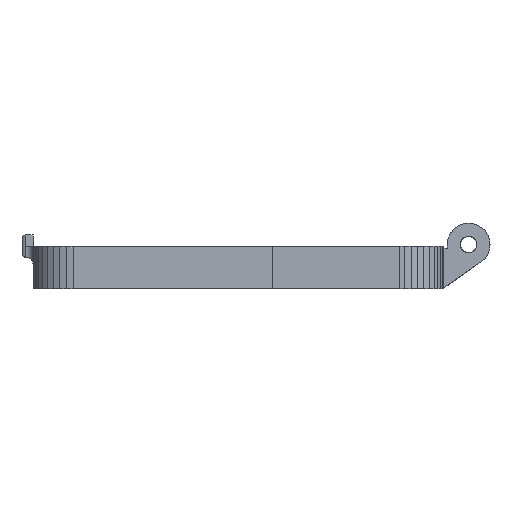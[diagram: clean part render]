
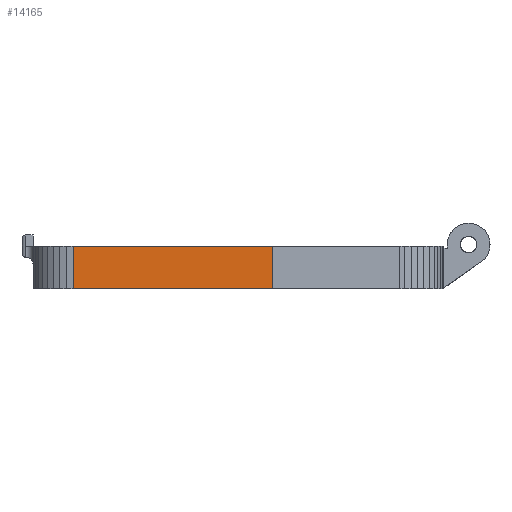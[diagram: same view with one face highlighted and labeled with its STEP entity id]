
A CAD part, left-side view. The second image highlights one B-rep face of the part: STEP entity #14165.
In plain terms, the highlighted planar face has unit normal (-1, 0, 0).
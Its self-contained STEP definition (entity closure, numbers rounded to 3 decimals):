
#837=PLANE('',#15071);
#1392=FACE_OUTER_BOUND('',#2193,.T.);
#2193=EDGE_LOOP('',(#10135,#10136,#10137,#10138));
#2984=LINE('',#18928,#4609);
#3067=LINE('',#19200,#4692);
#3069=LINE('',#19204,#4694);
#3070=LINE('',#19205,#4695);
#4609=VECTOR('',#15928,10.);
#4692=VECTOR('',#16099,10.);
#4694=VECTOR('',#16103,10.);
#4695=VECTOR('',#16104,10.);
#6276=VERTEX_POINT('',#18925);
#6277=VERTEX_POINT('',#18927);
#6358=VERTEX_POINT('',#19199);
#6359=VERTEX_POINT('',#19203);
#7737=EDGE_CURVE('',#6277,#6276,#2984,.T.);
#7845=EDGE_CURVE('',#6277,#6358,#3067,.T.);
#7847=EDGE_CURVE('',#6276,#6359,#3069,.T.);
#7848=EDGE_CURVE('',#6358,#6359,#3070,.T.);
#10135=ORIENTED_EDGE('',*,*,#7737,.T.);
#10136=ORIENTED_EDGE('',*,*,#7847,.T.);
#10137=ORIENTED_EDGE('',*,*,#7848,.F.);
#10138=ORIENTED_EDGE('',*,*,#7845,.F.);
#14165=ADVANCED_FACE('',(#1392),#837,.T.);
#15071=AXIS2_PLACEMENT_3D('',#19202,#16101,#16102);
#15928=DIRECTION('',(0.,1.,0.));
#16099=DIRECTION('',(0.,0.,-1.));
#16101=DIRECTION('center_axis',(-1.,0.,
0.));
#16102=DIRECTION('ref_axis',(0.,0.,-1.));
#16103=DIRECTION('',(0.,0.,-1.));
#16104=DIRECTION('',(0.,1.,0.));
#18925=CARTESIAN_POINT('',(-78.982,41.472,33.4));
#18927=CARTESIAN_POINT('',(-78.986,14.448,33.4));
#18928=CARTESIAN_POINT('',(-78.995,-52.831,33.4));
#19199=CARTESIAN_POINT('',(-78.989,14.448,27.6));
#19200=CARTESIAN_POINT('',(-78.986,14.448,32.825));
#19202=CARTESIAN_POINT('Origin',(-78.995,-49.841,33.6));
#19203=CARTESIAN_POINT('',(-78.982,41.472,27.6));
#19204=CARTESIAN_POINT('',(-78.982,41.472,33.6));
#19205=CARTESIAN_POINT('',(-78.995,-49.841,27.6));
